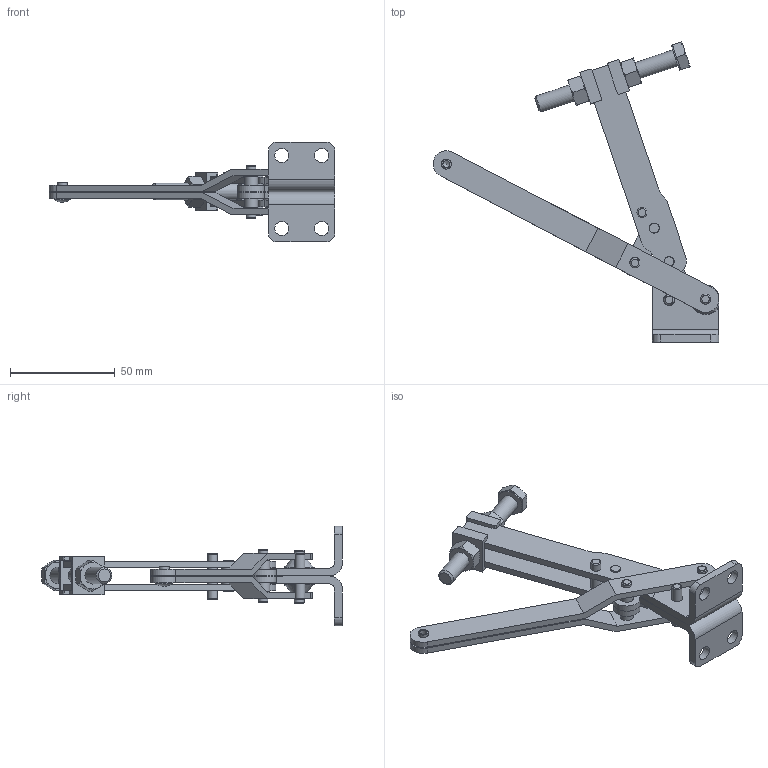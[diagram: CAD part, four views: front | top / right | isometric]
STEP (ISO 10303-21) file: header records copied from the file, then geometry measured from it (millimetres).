
FILE_DESCRIPTION(/* description */ (''),/* implementation_level */ '2;1');
FILE_NAME(/* name */ 'C:\Users\Nick\Desktop\V-200\3D\V-200 Open.stp',/* time_stamp */ '2015-09-09T14:46:07-04:00',/* author */ ('Nick'),/* organization */ (''),/* preprocessor_version */ 'ST-DEVELOPER v16.1',/* originating_system */ 'AutoCAD Mechanical',/* authorisation */ '');
FILE_SCHEMA (('AUTOMOTIVE_DESIGN { 1 0 10303 214 3 1 1 }'));
Length unit declared in the file: inch
Products named in the file (1): Product
Bounding box: 136.59 x 143.67 x 47.65 mm (x, y, z)
Volume: 43779 mm3; surface area: 35870.7 mm2
Topology: 20 solids, 20 shells, 329 faces, 768 edges, 489 vertices
Faces by surface type: plane 145, cylinder 104, cone 40, torus 25, bspline 8, sphere 7
Full cylindrical faces by diameter (mm): 3.353 x1, 4.674 x8, 4.724 x1, 4.75 x1, 4.762 x2, 4.775 x2, 4.826 x10, 5.537 x1, 6.299 x4, 6.401 x2, 6.426 x4, 6.452 x4, 6.807 x4, 7.938 x1, 8.331 x2, 12.7 x1
Entity records: 9906 total; most frequent: CARTESIAN_POINT 2609, DIRECTION 1540, ORIENTED_EDGE 1364, EDGE_CURVE 682, AXIS2_PLACEMENT_3D 628, VERTEX_POINT 478, EDGE_LOOP 474, FACE_OUTER_BOUND 329
